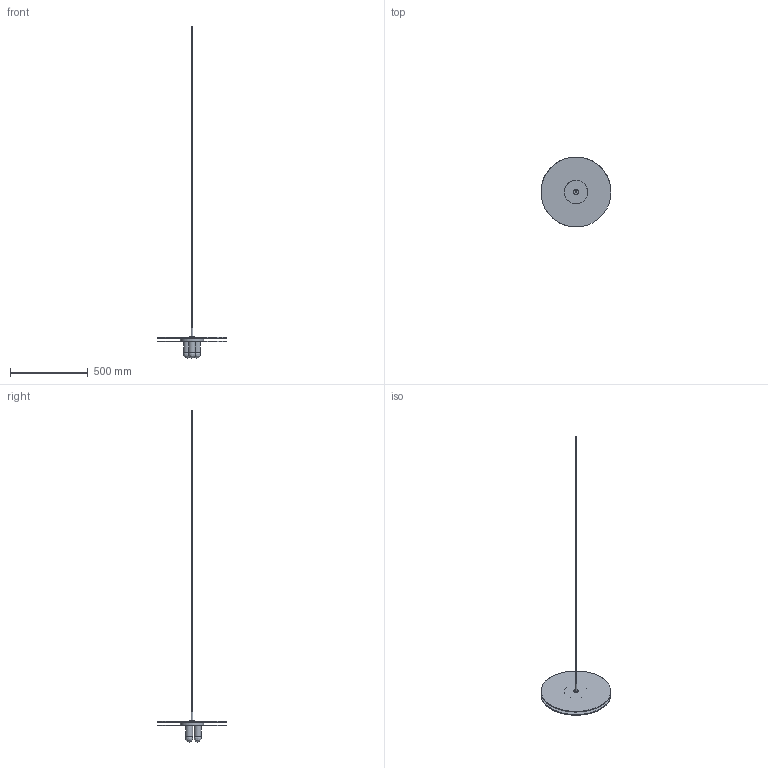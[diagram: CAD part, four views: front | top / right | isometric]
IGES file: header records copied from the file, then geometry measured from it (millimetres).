
Global section: file name: /Users/064_p/Desktop/3d data_02/ILKW_B-DAY45_Pendant_3D.igs; native system: Rhinoceros ( Jul  7 2025 ); preprocessor: Trout Lake IGES 012 Jul  7 2025; date: 260828.080203; units: millimetre
Bounding box: 450 x 450 x 2135.24 mm (x, y, z)
Surface area: 706239.4 mm2 (no closed solid volume)
Topology: 0 solids, 0 shells, 23 faces, 136 edges, 124 vertices
Faces by surface type: bspline 23
